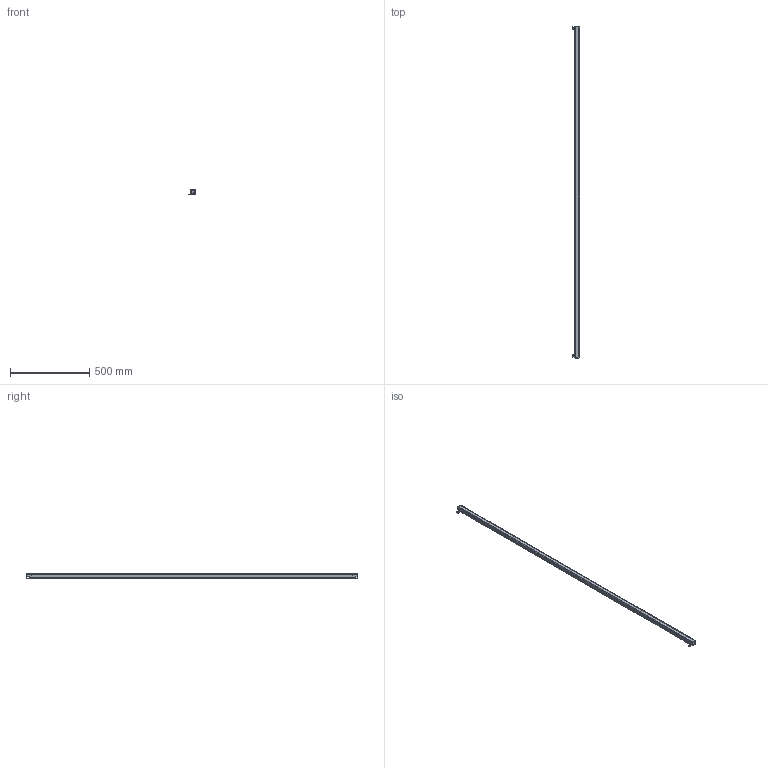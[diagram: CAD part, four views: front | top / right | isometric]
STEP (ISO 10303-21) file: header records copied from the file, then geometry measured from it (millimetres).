
FILE_DESCRIPTION(/* description */ (''),/* implementation_level */ '2;1');
FILE_NAME(/* name */ '5240(30X30).stp',/* time_stamp */ '2023-10-23T14:25:54+08:00',/* author */ (''),/* organization */ (''),/* preprocessor_version */ 'ST-DEVELOPER v16.7',/* originating_system */ 'SIEMENS PLM Software NX 12.0',/* authorisation */ '');
FILE_SCHEMA (('AP203_CONFIGURATION_CONTROLLED_3D_DESIGN_OF_MECHANICAL_PARTS_AND_ASSEMBLIES_MIM_LF { 1 0 10303 403 2 1 2}'));
Length unit declared in the file: millimetre
Products named in the file (1): 3840_30X30__stp
Bounding box: 44.89 x 2088.4 x 31.39 mm (x, y, z)
Volume: 646567.7 mm3; surface area: 683700.2 mm2
Topology: 6 solids, 6 shells, 441 faces, 1311 edges, 871 vertices
Faces by surface type: plane 256, cylinder 132, cone 32, bspline 14, extrusion 7
Full cylindrical faces by diameter (mm): 1.5 x2, 3.2 x8, 3.5 x8
Entity records: 15730 total; most frequent: CARTESIAN_POINT 3886, ORIENTED_EDGE 2528, DIRECTION 2314, EDGE_CURVE 1264, VECTOR 856, VERTEX_POINT 855, LINE 849, AXIS2_PLACEMENT_3D 729
